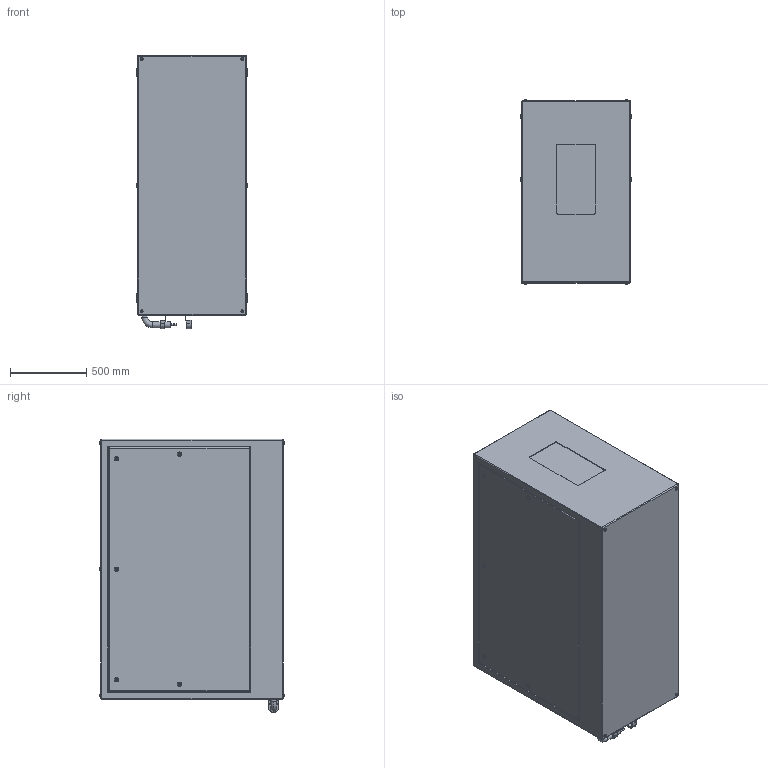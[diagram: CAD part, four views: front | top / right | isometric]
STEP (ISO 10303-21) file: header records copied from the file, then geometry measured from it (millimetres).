
FILE_DESCRIPTION (( 'STEP AP214' ), '1' );
FILE_NAME ('Oasis 59.525.P R02.STEP', '2022-08-27T16:14:30', ( '' ), ( '' ), 'SwSTEP 2.0', 'SolidWorks 2020', '' );
FILE_SCHEMA (( 'AUTOMOTIVE_DESIGN' ));
Length unit declared in the file: inch
Products named in the file (1): Oasis 59.525.P R02
Bounding box: 723.9 x 1211.07 x 1790.7 mm (x, y, z)
Volume: 1443657090.7 mm3; surface area: 8803479 mm2
Topology: 2 solids, 8 shells, 555 faces, 1265 edges, 802 vertices
Faces by surface type: plane 307, cylinder 186, torus 54, bspline 8
Entity records: 21388 total; most frequent: CARTESIAN_POINT 3135, DIRECTION 2763, ORIENTED_EDGE 2514, EDGE_CURVE 1257, AXIS2_PLACEMENT_3D 990, VERTEX_POINT 802, LINE 783, VECTOR 783
